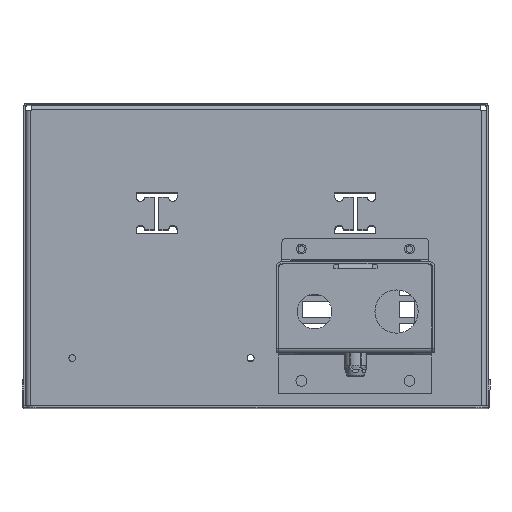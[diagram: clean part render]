
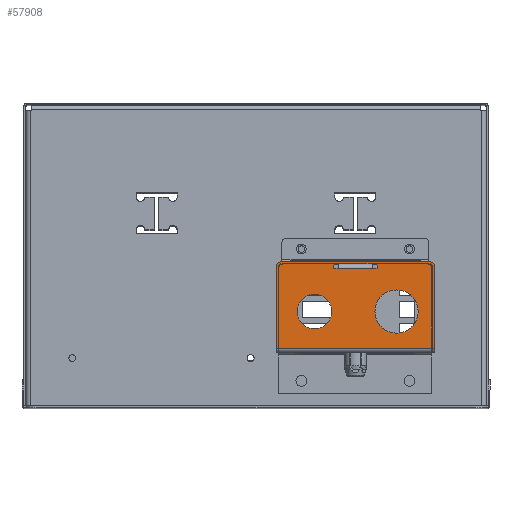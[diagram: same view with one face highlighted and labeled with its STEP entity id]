
A CAD part, top view. The second image highlights one B-rep face of the part: STEP entity #57908.
In plain terms, the highlighted planar face has unit normal (0, 0, 1).
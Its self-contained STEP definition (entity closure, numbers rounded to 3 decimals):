
#7878=LINE('',#94858,#14048);
#7885=LINE('',#94872,#14055);
#7888=LINE('',#94877,#14058);
#7891=LINE('',#94886,#14061);
#7900=LINE('',#94917,#14070);
#7902=LINE('',#94921,#14072);
#7903=LINE('',#94924,#14073);
#7914=LINE('',#94955,#14084);
#7935=LINE('',#95043,#14105);
#7941=LINE('',#95054,#14111);
#7942=LINE('',#95055,#14112);
#7960=LINE('',#95128,#14130);
#7964=LINE('',#95136,#14134);
#7968=LINE('',#95149,#14138);
#7969=LINE('',#95151,#14139);
#7970=LINE('',#95153,#14140);
#7971=LINE('',#95156,#14141);
#7972=LINE('',#95158,#14142);
#14048=VECTOR('',#70750,10.);
#14055=VECTOR('',#70763,10.);
#14058=VECTOR('',#70768,10.);
#14061=VECTOR('',#70777,10.);
#14070=VECTOR('',#70808,10.);
#14072=VECTOR('',#70812,10.);
#14073=VECTOR('',#70815,10.);
#14084=VECTOR('',#70856,10.);
#14105=VECTOR('',#70935,10.);
#14111=VECTOR('',#70941,10.);
#14112=VECTOR('',#70942,10.);
#14130=VECTOR('',#71016,10.);
#14134=VECTOR('',#71024,10.);
#14138=VECTOR('',#71036,10.);
#14139=VECTOR('',#71039,10.);
#14140=VECTOR('',#71040,10.);
#14141=VECTOR('',#71043,10.);
#14142=VECTOR('',#71044,10.);
#16208=PLANE('',#60299);
#17046=FACE_BOUND('',#23310,.T.);
#17047=FACE_BOUND('',#23311,.T.);
#17048=FACE_BOUND('',#23312,.T.);
#19766=FACE_OUTER_BOUND('',#23309,.T.);
#23309=EDGE_LOOP('',(#51825,#51826,#51827,#51828,#51829,#51830,#51831,#51832,
#51833,#51834,#51835,#51836,#51837,#51838,#51839,#51840,#51841,#51842));
#23310=EDGE_LOOP('',(#51843,#51844,#51845,#51846,#51847,#51848));
#23311=EDGE_LOOP('',(#51849));
#23312=EDGE_LOOP('',(#51850));
#23661=CIRCLE('',#60206,2.);
#23666=CIRCLE('',#60213,2.);
#23672=CIRCLE('',#60228,10.);
#23673=CIRCLE('',#60230,8.);
#23693=CIRCLE('',#60284,1.);
#23694=CIRCLE('',#60286,2.);
#23700=CIRCLE('',#60300,2.);
#23701=CIRCLE('',#60301,1.);
#28740=VERTEX_POINT('',#94855);
#28741=VERTEX_POINT('',#94857);
#28745=VERTEX_POINT('',#94870);
#28746=VERTEX_POINT('',#94875);
#28747=VERTEX_POINT('',#94879);
#28748=VERTEX_POINT('',#94881);
#28749=VERTEX_POINT('',#94885);
#28754=VERTEX_POINT('',#94899);
#28755=VERTEX_POINT('',#94900);
#28760=VERTEX_POINT('',#94915);
#28761=VERTEX_POINT('',#94919);
#28762=VERTEX_POINT('',#94923);
#28766=VERTEX_POINT('',#94942);
#28767=VERTEX_POINT('',#94945);
#28787=VERTEX_POINT('',#95042);
#28792=VERTEX_POINT('',#95052);
#28813=VERTEX_POINT('',#95109);
#28814=VERTEX_POINT('',#95113);
#28815=VERTEX_POINT('',#95115);
#28818=VERTEX_POINT('',#95125);
#28819=VERTEX_POINT('',#95127);
#28823=VERTEX_POINT('',#95142);
#28826=VERTEX_POINT('',#95147);
#28827=VERTEX_POINT('',#95152);
#28828=VERTEX_POINT('',#95154);
#28829=VERTEX_POINT('',#95157);
#36399=EDGE_CURVE('',#28740,#28741,#7878,.T.);
#36407=EDGE_CURVE('',#28740,#28745,#7885,.T.);
#36410=EDGE_CURVE('',#28746,#28741,#7888,.T.);
#36412=EDGE_CURVE('',#28747,#28748,#23661,.T.);
#36414=EDGE_CURVE('',#28748,#28749,#7891,.T.);
#36422=EDGE_CURVE('',#28754,#28755,#23666,.T.);
#36432=EDGE_CURVE('',#28760,#28754,#7900,.T.);
#36434=EDGE_CURVE('',#28745,#28761,#7902,.T.);
#36435=EDGE_CURVE('',#28762,#28746,#7903,.T.);
#36444=EDGE_CURVE('',#28766,#28766,#23672,.T.);
#36445=EDGE_CURVE('',#28767,#28767,#23673,.T.);
#36449=EDGE_CURVE('',#28749,#28760,#7914,.T.);
#36483=EDGE_CURVE('',#28787,#28755,#7935,.T.);
#36489=EDGE_CURVE('',#28747,#28792,#7941,.T.);
#36490=EDGE_CURVE('',#28761,#28762,#7942,.T.);
#36518=EDGE_CURVE('',#28792,#28813,#23693,.T.);
#36520=EDGE_CURVE('',#28815,#28814,#23694,.T.);
#36524=EDGE_CURVE('',#28818,#28819,#7960,.T.);
#36529=EDGE_CURVE('',#28818,#28815,#7964,.T.);
#36535=EDGE_CURVE('',#28826,#28823,#7968,.T.);
#36536=EDGE_CURVE('',#28813,#28819,#7969,.T.);
#36537=EDGE_CURVE('',#28814,#28827,#7970,.T.);
#36538=EDGE_CURVE('',#28827,#28828,#23700,.T.);
#36539=EDGE_CURVE('',#28828,#28823,#7971,.T.);
#36540=EDGE_CURVE('',#28826,#28829,#7972,.T.);
#36541=EDGE_CURVE('',#28829,#28787,#23701,.T.);
#51825=ORIENTED_EDGE('',*,*,#36422,.F.);
#51826=ORIENTED_EDGE('',*,*,#36432,.F.);
#51827=ORIENTED_EDGE('',*,*,#36449,.F.);
#51828=ORIENTED_EDGE('',*,*,#36414,.F.);
#51829=ORIENTED_EDGE('',*,*,#36412,.F.);
#51830=ORIENTED_EDGE('',*,*,#36489,.T.);
#51831=ORIENTED_EDGE('',*,*,#36518,.T.);
#51832=ORIENTED_EDGE('',*,*,#36536,.T.);
#51833=ORIENTED_EDGE('',*,*,#36524,.F.);
#51834=ORIENTED_EDGE('',*,*,#36529,.T.);
#51835=ORIENTED_EDGE('',*,*,#36520,.T.);
#51836=ORIENTED_EDGE('',*,*,#36537,.T.);
#51837=ORIENTED_EDGE('',*,*,#36538,.T.);
#51838=ORIENTED_EDGE('',*,*,#36539,.T.);
#51839=ORIENTED_EDGE('',*,*,#36535,.F.);
#51840=ORIENTED_EDGE('',*,*,#36540,.T.);
#51841=ORIENTED_EDGE('',*,*,#36541,.T.);
#51842=ORIENTED_EDGE('',*,*,#36483,.T.);
#51843=ORIENTED_EDGE('',*,*,#36490,.T.);
#51844=ORIENTED_EDGE('',*,*,#36435,.T.);
#51845=ORIENTED_EDGE('',*,*,#36410,.T.);
#51846=ORIENTED_EDGE('',*,*,#36399,.F.);
#51847=ORIENTED_EDGE('',*,*,#36407,.T.);
#51848=ORIENTED_EDGE('',*,*,#36434,.T.);
#51849=ORIENTED_EDGE('',*,*,#36444,.T.);
#51850=ORIENTED_EDGE('',*,*,#36445,.T.);
#57908=ADVANCED_FACE('',(#19766,#17046,#17047,#17048),#16208,.T.);
#60206=AXIS2_PLACEMENT_3D('',#94882,#70772,#70773);
#60213=AXIS2_PLACEMENT_3D('',#94901,#70791,#70792);
#60228=AXIS2_PLACEMENT_3D('',#94943,#70837,#70838);
#60230=AXIS2_PLACEMENT_3D('',#94946,#70841,#70842);
#60284=AXIS2_PLACEMENT_3D('',#95111,#70996,#70997);
#60286=AXIS2_PLACEMENT_3D('',#95116,#71001,#71002);
#60299=AXIS2_PLACEMENT_3D('',#95150,#71037,#71038);
#60300=AXIS2_PLACEMENT_3D('',#95155,#71041,#71042);
#60301=AXIS2_PLACEMENT_3D('',#95159,#71045,#71046);
#70750=DIRECTION('',(1.,0.,0.));
#70763=DIRECTION('',(-1.,0.,0.));
#70768=DIRECTION('',(-1.,0.,0.));
#70772=DIRECTION('center_axis',(0.,0.,
-1.));
#70773=DIRECTION('ref_axis',(0.707,0.707,0.));
#70777=DIRECTION('',(0.,-1.,0.));
#70791=DIRECTION('center_axis',(0.,0.,
-1.));
#70792=DIRECTION('ref_axis',(-0.707,0.707,0.));
#70808=DIRECTION('',(0.,1.,0.));
#70812=DIRECTION('',(0.,1.,0.));
#70815=DIRECTION('',(0.,-1.,0.));
#70837=DIRECTION('center_axis',(0.,0.,
-1.));
#70838=DIRECTION('ref_axis',(-1.,0.,0.));
#70841=DIRECTION('center_axis',(0.,0.,
-1.));
#70842=DIRECTION('ref_axis',(-1.,0.,0.));
#70856=DIRECTION('',(-1.,0.,0.));
#70935=DIRECTION('',(1.,0.,0.));
#70941=DIRECTION('',(1.,0.,0.));
#70942=DIRECTION('',(1.,0.,0.));
#70996=DIRECTION('center_axis',(0.,0.,
-1.));
#70997=DIRECTION('ref_axis',(-1.,0.,0.));
#71001=DIRECTION('center_axis',(0.,0.,
1.));
#71002=DIRECTION('ref_axis',(1.,0.,0.));
#71016=DIRECTION('',(-1.,0.,0.));
#71024=DIRECTION('',(0.,1.,0.));
#71036=DIRECTION('',(-1.,0.,0.));
#71037=DIRECTION('center_axis',(0.,0.,
1.));
#71038=DIRECTION('ref_axis',(1.,0.,0.));
#71039=DIRECTION('',(0.,-1.,0.));
#71040=DIRECTION('',(-1.,0.,0.));
#71041=DIRECTION('center_axis',(0.,0.,
1.));
#71042=DIRECTION('ref_axis',(0.,1.,0.));
#71043=DIRECTION('',(0.,-1.,0.));
#71044=DIRECTION('',(0.,1.,0.));
#71045=DIRECTION('center_axis',(0.,0.,
-1.));
#71046=DIRECTION('ref_axis',(0.,-1.,0.));
#94855=CARTESIAN_POINT('',(38.,57.9,194.3));
#94857=CARTESIAN_POINT('',(54.,57.9,194.3));
#94858=CARTESIAN_POINT('',(46.,57.9,194.3));
#94870=CARTESIAN_POINT('',(36.,57.9,194.3));
#94872=CARTESIAN_POINT('',(41.5,57.9,194.3));
#94875=CARTESIAN_POINT('',(56.,57.9,194.3));
#94877=CARTESIAN_POINT('',(50.5,57.9,194.3));
#94879=CARTESIAN_POINT('',(79.4,59.9,194.3));
#94881=CARTESIAN_POINT('',(81.4,57.9,194.3));
#94882=CARTESIAN_POINT('Origin',(79.4,57.9,194.3));
#94885=CARTESIAN_POINT('',(81.4,20.9,194.3));
#94886=CARTESIAN_POINT('',(81.4,18.9,194.3));
#94899=CARTESIAN_POINT('',(10.6,57.9,194.3));
#94900=CARTESIAN_POINT('',(12.6,59.9,194.3));
#94901=CARTESIAN_POINT('Origin',(12.6,57.9,194.3));
#94915=CARTESIAN_POINT('',(10.6,20.9,194.3));
#94917=CARTESIAN_POINT('',(10.6,58.9,194.3));
#94919=CARTESIAN_POINT('',(36.,59.9,194.3));
#94921=CARTESIAN_POINT('',(36.,58.9,194.3));
#94923=CARTESIAN_POINT('',(56.,59.9,194.3));
#94924=CARTESIAN_POINT('',(56.,38.9,194.3));
#94942=CARTESIAN_POINT('',(75.,37.9,194.3));
#94943=CARTESIAN_POINT('Origin',(65.,37.9,194.3));
#94945=CARTESIAN_POINT('',(35.,37.9,194.3));
#94946=CARTESIAN_POINT('Origin',(27.,37.9,194.3));
#94955=CARTESIAN_POINT('',(46.,20.9,194.3));
#95042=CARTESIAN_POINT('',(11.5,59.9,194.3));
#95043=CARTESIAN_POINT('',(11.5,59.9,194.3));
#95052=CARTESIAN_POINT('',(80.5,59.9,194.3));
#95054=CARTESIAN_POINT('',(11.5,59.9,194.3));
#95055=CARTESIAN_POINT('',(11.5,59.9,194.3));
#95109=CARTESIAN_POINT('',(81.5,58.9,194.3));
#95111=CARTESIAN_POINT('Origin',(80.5,58.9,194.3));
#95113=CARTESIAN_POINT('',(80.5,60.9,194.3));
#95115=CARTESIAN_POINT('',(82.5,58.9,194.3));
#95116=CARTESIAN_POINT('Origin',(80.5,58.9,194.3));
#95125=CARTESIAN_POINT('',(82.5,20.9,194.3));
#95127=CARTESIAN_POINT('',(81.5,20.9,194.3));
#95128=CARTESIAN_POINT('',(63.75,20.9,194.3));
#95136=CARTESIAN_POINT('',(82.5,18.9,194.3));
#95142=CARTESIAN_POINT('',(9.5,20.9,194.3));
#95147=CARTESIAN_POINT('',(10.5,20.9,194.3));
#95149=CARTESIAN_POINT('',(27.75,20.9,194.3));
#95150=CARTESIAN_POINT('Origin',(46.,48.917,194.3));
#95151=CARTESIAN_POINT('',(81.5,58.9,194.3));
#95152=CARTESIAN_POINT('',(11.5,60.9,194.3));
#95153=CARTESIAN_POINT('',(80.5,60.9,194.3));
#95154=CARTESIAN_POINT('',(9.5,58.9,194.3));
#95155=CARTESIAN_POINT('Origin',(11.5,58.9,194.3));
#95156=CARTESIAN_POINT('',(9.5,58.9,194.3));
#95157=CARTESIAN_POINT('',(10.5,58.9,194.3));
#95158=CARTESIAN_POINT('',(10.5,18.9,194.3));
#95159=CARTESIAN_POINT('Origin',(11.5,58.9,194.3));
